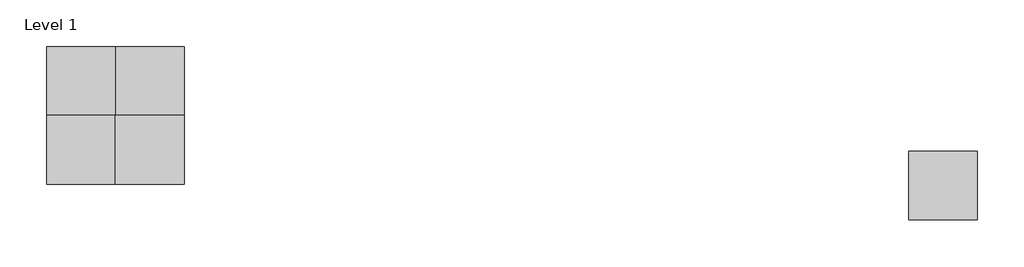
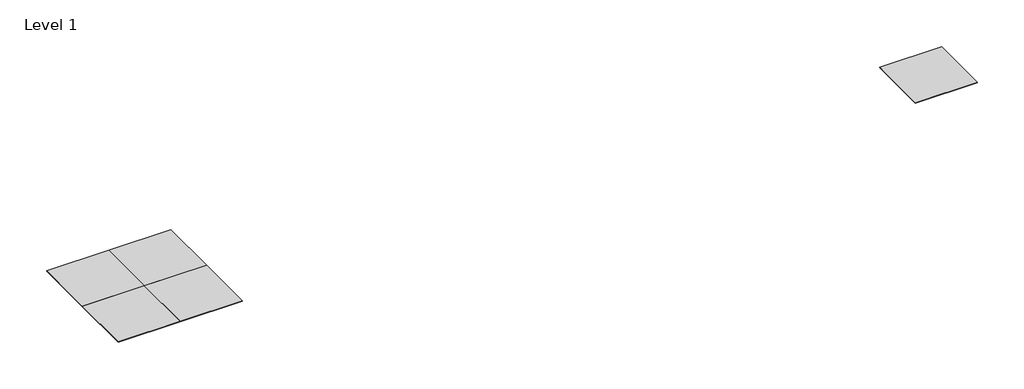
# One storey: 5 proxies.
"""IFC4 building model written with IfcOpenShell, lengths in millimetres."""

from ifc_helpers import new_model, si_unit, origin, place, context, project, spatial, transform, mapped, element, save
from components import flat_83722d0f, specialty_equipment_1fa0dee3

model = new_model("IFC4")

# Units and contexts
model_context = context("Model", 3, world=origin())
ifc_project = project(units=[si_unit("LENGTHUNIT", "METRE", prefix="MILLI")], contexts=[model_context])

# Site, building, storey
site = spatial("IfcSite", under=ifc_project)
building = spatial("IfcBuilding", under=site)
storey = spatial("IfcBuildingStorey", under=building, Name="Level 1", Elevation=0.0)

# Proxies
placement = place(None, origin())
flat_shape = flat_83722d0f(model_context)
element("IfcBuildingElementProxy", 1, Name="Ceiling_Tile-Qwel-Noise_Reduction_Booster : Noise Reduction Booster", ObjectType="Ceiling_Tile-Qwel-Noise_Reduction_Booster : Noise Reduction Booster", at=placement, inside=storey, context=model_context, shape_type="MappedRepresentation", body=[
    mapped(flat_shape, transform((-5922.1212374, -18611.6687425, 0.0), x_axis=(1.0, 0.0, 0.0), y_axis=(0.0, 1.0, 0.0), z_axis=(0.0, 0.0, 1.0))),
])
element("IfcBuildingElementProxy", 2, Name="Ceiling_Tile-Qwel-Noise_Reduction_Booster : Noise Reduction Booster", ObjectType="Ceiling_Tile-Qwel-Noise_Reduction_Booster : Noise Reduction Booster", at=placement, inside=storey, context=model_context, shape_type="MappedRepresentation", body=[
    mapped(flat_shape, transform((-5312.5212374, -19221.2687425, 0.0), x_axis=(-1.0, 0.0, 0.0), y_axis=(0.0, -1.0, 0.0), z_axis=(0.0, 0.0, 1.0))),
])
specialty_equipment_shape = specialty_equipment_1fa0dee3(model_context)
element("IfcBuildingElementProxy", 3, Name="Ceiling_Tile-Qwel-Noise_Reduction_Booster : Noise Reduction Booster", ObjectType="Ceiling_Tile-Qwel-Noise_Reduction_Booster : Noise Reduction Booster", at=placement, inside=storey, context=model_context, shape_type="MappedRepresentation", body=[
    mapped(specialty_equipment_shape, transform((-5312.5212374, -18611.6687425, 0.0), x_axis=(-1.0, 0.0, 0.0), y_axis=(0.0, -1.0, 0.0), z_axis=(0.0, 0.0, 1.0))),
])
element("IfcBuildingElementProxy", 4, Name="Ceiling_Tile-Qwel-Noise_Reduction_Booster : Noise Reduction Booster", ObjectType="Ceiling_Tile-Qwel-Noise_Reduction_Booster : Noise Reduction Booster", at=placement, inside=storey, context=model_context, shape_type="MappedRepresentation", body=[
    mapped(specialty_equipment_shape, transform((-5922.1212374, -19221.2687425, 0.0), x_axis=(1.0, 0.0, 0.0), y_axis=(0.0, 1.0, 0.0), z_axis=(0.0, 0.0, 1.0))),
])
element("IfcBuildingElementProxy", 5, Name="Ceiling_Tile-Qwel-Flat : Flat", ObjectType="Ceiling_Tile-Qwel-Flat : Flat", at=placement, inside=storey, context=model_context, shape_type="MappedRepresentation", body=[
    mapped(flat_shape, transform((1723.5822336, -19540.2136143, 0.0), x_axis=(1.0, 0.0, 0.0), y_axis=(0.0, 1.0, 0.0), z_axis=(0.0, 0.0, 1.0))),
])

save(model, "model.ifc")
